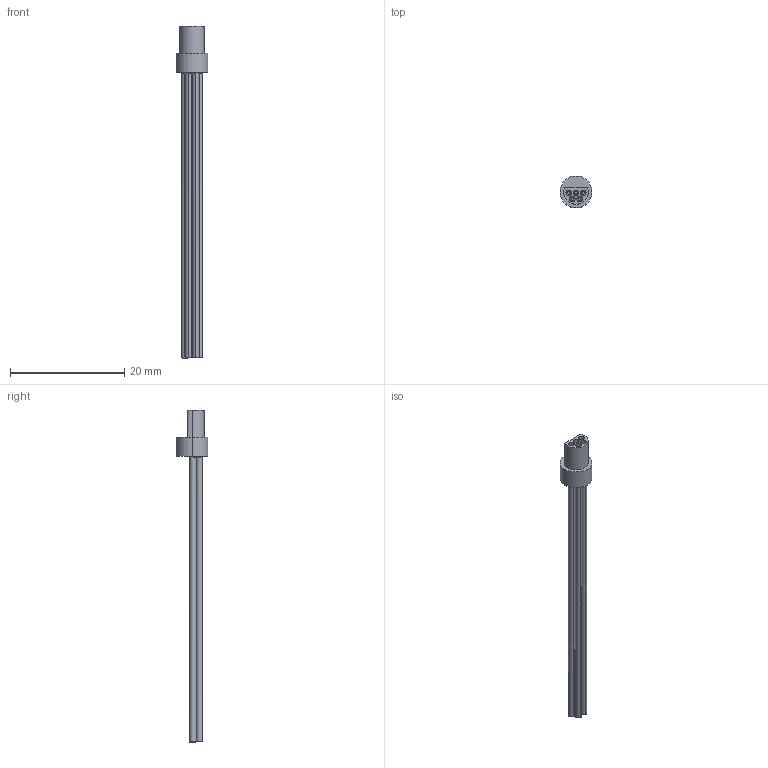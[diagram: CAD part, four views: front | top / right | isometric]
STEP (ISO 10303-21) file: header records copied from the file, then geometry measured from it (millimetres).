
FILE_DESCRIPTION (( 'STEP AP214' ), '1' );
FILE_NAME ('A22002-001 REV F.STEP', '2011-07-20T16:23:45', ( 'IT' ), ( '' ), 'SwSTEP 2.0', 'SolidWorks 2010', '' );
FILE_SCHEMA (( 'AUTOMOTIVE_DESIGN' ));
Length unit declared in the file: inch
Products named in the file (1): A22002-001
Bounding box: 5.59 x 5.59 x 58.17 mm (x, y, z)
Volume: 341.2 mm3; surface area: 1157.2 mm2
Topology: 1 solids, 1 shells, 73 faces, 156 edges, 107 vertices
Faces by surface type: cylinder 45, plane 27, bspline 1
Entity records: 2340 total; most frequent: CARTESIAN_POINT 666, DIRECTION 358, ORIENTED_EDGE 312, EDGE_CURVE 156, AXIS2_PLACEMENT_3D 153, VERTEX_POINT 107, EDGE_LOOP 95, CIRCLE 80
